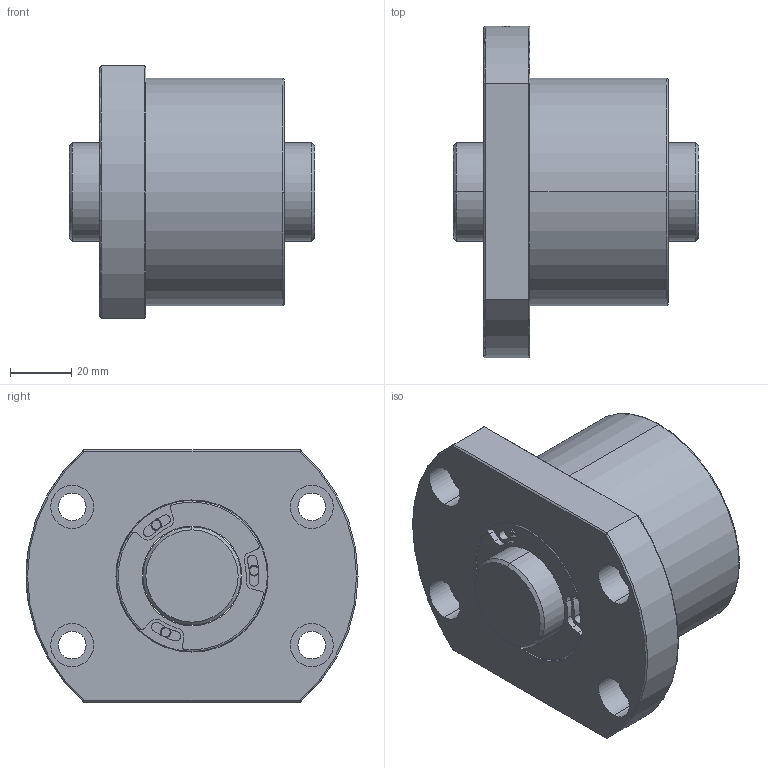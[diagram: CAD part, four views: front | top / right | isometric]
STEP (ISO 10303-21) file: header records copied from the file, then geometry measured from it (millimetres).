
FILE_DESCRIPTION (( 'STEP AP203' ), '1' );
FILE_NAME ('SFVSR03210C1D-C1.STEP', '2020-06-17T05:27:53', ( '' ), ( '' ), 'SwSTEP 2.0', 'SolidWorks 2013', '' );
FILE_SCHEMA (( 'CONFIG_CONTROL_DESIGN' ));
Length unit declared in the file: millimetre
Products named in the file (1): SFVSR03210C1D-C1
Bounding box: 80 x 108 x 82 mm (x, y, z)
Volume: 314374.5 mm3; surface area: 51694.3 mm2
Topology: 2 solids, 2 shells, 246 faces, 610 edges, 392 vertices
Faces by surface type: cylinder 136, plane 79, cone 16, torus 15
Entity records: 7957 total; most frequent: CARTESIAN_POINT 1723, DIRECTION 1440, ORIENTED_EDGE 1220, AXIS2_PLACEMENT_3D 617, EDGE_CURVE 610, VERTEX_POINT 392, CIRCLE 370, EDGE_LOOP 282
